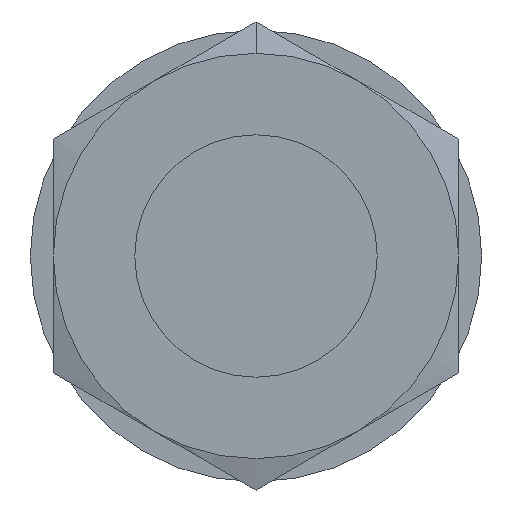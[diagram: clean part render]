
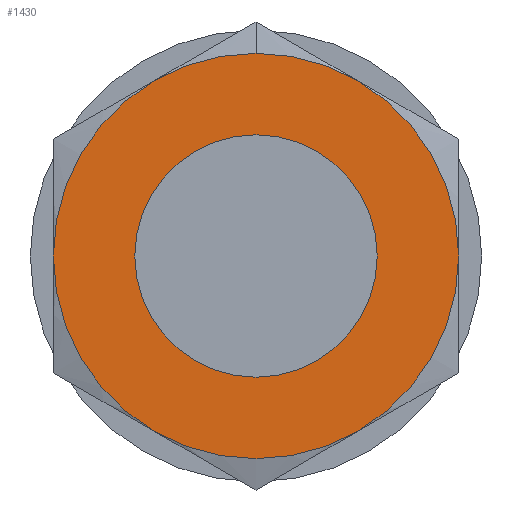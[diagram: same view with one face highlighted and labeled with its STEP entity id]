
A CAD part, front view. The second image highlights one B-rep face of the part: STEP entity #1430.
In plain terms, the highlighted planar face has unit normal (0, -1, 0).
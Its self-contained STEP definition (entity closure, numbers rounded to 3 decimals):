
#1 = AXIS2_PLACEMENT_3D ( 'NONE', #1334, #1200, #502 ) ;
#24 = EDGE_CURVE ( 'NONE', #1150, #1689, #1763, .T. ) ;
#46 = CARTESIAN_POINT ( 'NONE',  ( 0., 3.49, 11. ) ) ;
#48 = DIRECTION ( 'NONE',  ( 0., 0., -1. ) ) ;
#60 = ORIENTED_EDGE ( 'NONE', *, *, #1817, .T. ) ;
#90 = FACE_BOUND ( 'NONE', #982, .T. ) ;
#123 = AXIS2_PLACEMENT_3D ( 'NONE', #332, #941, #468 ) ;
#124 = ORIENTED_EDGE ( 'NONE', *, *, #134, .T. ) ;
#131 = CARTESIAN_POINT ( 'NONE',  ( 0., 3.49, 0. ) ) ;
#134 = EDGE_CURVE ( 'NONE', #1788, #699, #1440, .T. ) ;
#144 = CIRCLE ( 'NONE', #1023, 11. ) ;
#152 = CIRCLE ( 'NONE', #532, 11. ) ;
#199 = CARTESIAN_POINT ( 'NONE',  ( 0., 3.49, 0. ) ) ;
#228 = FACE_OUTER_BOUND ( 'NONE', #481, .T. ) ;
#229 = VERTEX_POINT ( 'NONE', #1601 ) ;
#245 = ORIENTED_EDGE ( 'NONE', *, *, #24, .T. ) ;
#282 = AXIS2_PLACEMENT_3D ( 'NONE', #1807, #678, #1247 ) ;
#297 = DIRECTION ( 'NONE',  ( 0., 0., -1. ) ) ;
#332 = CARTESIAN_POINT ( 'NONE',  ( 11., 3.49, 0. ) ) ;
#421 = ORIENTED_EDGE ( 'NONE', *, *, #682, .T. ) ;
#442 = CIRCLE ( 'NONE', #1652, 11. ) ;
#443 = CARTESIAN_POINT ( 'NONE',  ( 0., 3.49, 0. ) ) ;
#466 = ORIENTED_EDGE ( 'NONE', *, *, #1469, .T. ) ;
#468 = DIRECTION ( 'NONE',  ( 1., 0., 0. ) ) ;
#481 = EDGE_LOOP ( 'NONE', ( #245, #1585, #124, #466, #1109, #421, #60 ) ) ;
#502 = DIRECTION ( 'NONE',  ( 0., 0., -1. ) ) ;
#522 = DIRECTION ( 'NONE',  ( 0., 0., -1. ) ) ;
#532 = AXIS2_PLACEMENT_3D ( 'NONE', #199, #648, #902 ) ;
#555 = CARTESIAN_POINT ( 'NONE',  ( 5.5, 3.49, -9.526 ) ) ;
#588 = CARTESIAN_POINT ( 'NONE',  ( 0., 3.49, 0. ) ) ;
#593 = ORIENTED_EDGE ( 'NONE', *, *, #1624, .F. ) ;
#599 = CARTESIAN_POINT ( 'NONE',  ( 0., 3.49, -6.579 ) ) ;
#608 = CARTESIAN_POINT ( 'NONE',  ( 11., 3.49, 0. ) ) ;
#624 = EDGE_CURVE ( 'NONE', #229, #1369, #144, .T. ) ;
#648 = DIRECTION ( 'NONE',  ( 0., -1., 0. ) ) ;
#649 = CARTESIAN_POINT ( 'NONE',  ( 0., 3.49, 0. ) ) ;
#678 = DIRECTION ( 'NONE',  ( 0., -1., 0. ) ) ;
#682 = EDGE_CURVE ( 'NONE', #1369, #1267, #1500, .T. ) ;
#699 = VERTEX_POINT ( 'NONE', #46 ) ;
#733 = DIRECTION ( 'NONE',  ( 0., 0., -1. ) ) ;
#749 = AXIS2_PLACEMENT_3D ( 'NONE', #1276, #1443, #48 ) ;
#830 = VERTEX_POINT ( 'NONE', #1810 ) ;
#902 = DIRECTION ( 'NONE',  ( 0., 0., -1. ) ) ;
#918 = CARTESIAN_POINT ( 'NONE',  ( 5.5, 3.49, 9.526 ) ) ;
#941 = DIRECTION ( 'NONE',  ( 0., 1., 0. ) ) ;
#949 = DIRECTION ( 'NONE',  ( 0., -1., 0. ) ) ;
#971 = AXIS2_PLACEMENT_3D ( 'NONE', #588, #1151, #733 ) ;
#974 = DIRECTION ( 'NONE',  ( 0., -1., 0. ) ) ;
#982 = EDGE_LOOP ( 'NONE', ( #1166, #593 ) ) ;
#987 = CIRCLE ( 'NONE', #282, 6.579 ) ;
#1023 = AXIS2_PLACEMENT_3D ( 'NONE', #131, #974, #1093 ) ;
#1093 = DIRECTION ( 'NONE',  ( 0., 0., -1. ) ) ;
#1109 = ORIENTED_EDGE ( 'NONE', *, *, #624, .T. ) ;
#1149 = DIRECTION ( 'NONE',  ( 0., -1., 0. ) ) ;
#1150 = VERTEX_POINT ( 'NONE', #555 ) ;
#1151 = DIRECTION ( 'NONE',  ( 0., -1., 0. ) ) ;
#1166 = ORIENTED_EDGE ( 'NONE', *, *, #1715, .F. ) ;
#1170 = AXIS2_PLACEMENT_3D ( 'NONE', #1275, #1431, #1448 ) ;
#1200 = DIRECTION ( 'NONE',  ( 0., -1., 0. ) ) ;
#1222 = CIRCLE ( 'NONE', #749, 6.579 ) ;
#1247 = DIRECTION ( 'NONE',  ( 0., 0., -1. ) ) ;
#1267 = VERTEX_POINT ( 'NONE', #1573 ) ;
#1275 = CARTESIAN_POINT ( 'NONE',  ( 0., 3.49, 0. ) ) ;
#1276 = CARTESIAN_POINT ( 'NONE',  ( 0., 3.49, 0. ) ) ;
#1334 = CARTESIAN_POINT ( 'NONE',  ( 0., 3.49, 0. ) ) ;
#1345 = AXIS2_PLACEMENT_3D ( 'NONE', #443, #1149, #297 ) ;
#1369 = VERTEX_POINT ( 'NONE', #1770 ) ;
#1430 = ADVANCED_FACE ( 'NONE', ( #228, #90 ), #1782, .F. ) ;
#1431 = DIRECTION ( 'NONE',  ( 0., -1., 0. ) ) ;
#1440 = CIRCLE ( 'NONE', #1345, 11. ) ;
#1443 = DIRECTION ( 'NONE',  ( 0., -1., 0. ) ) ;
#1448 = DIRECTION ( 'NONE',  ( 0., 0., -1. ) ) ;
#1469 = EDGE_CURVE ( 'NONE', #699, #229, #442, .T. ) ;
#1500 = CIRCLE ( 'NONE', #1170, 11. ) ;
#1508 = CIRCLE ( 'NONE', #1, 11. ) ;
#1573 = CARTESIAN_POINT ( 'NONE',  ( -5.5, 3.49, -9.526 ) ) ;
#1585 = ORIENTED_EDGE ( 'NONE', *, *, #1822, .T. ) ;
#1601 = CARTESIAN_POINT ( 'NONE',  ( -5.5, 3.49, 9.526 ) ) ;
#1624 = EDGE_CURVE ( 'NONE', #830, #1628, #987, .T. ) ;
#1628 = VERTEX_POINT ( 'NONE', #599 ) ;
#1652 = AXIS2_PLACEMENT_3D ( 'NONE', #649, #949, #522 ) ;
#1689 = VERTEX_POINT ( 'NONE', #608 ) ;
#1715 = EDGE_CURVE ( 'NONE', #1628, #830, #1222, .T. ) ;
#1763 = CIRCLE ( 'NONE', #971, 11. ) ;
#1770 = CARTESIAN_POINT ( 'NONE',  ( -11., 3.49, 0. ) ) ;
#1782 = PLANE ( 'NONE',  #123 ) ;
#1788 = VERTEX_POINT ( 'NONE', #918 ) ;
#1807 = CARTESIAN_POINT ( 'NONE',  ( 0., 3.49, 0. ) ) ;
#1810 = CARTESIAN_POINT ( 'NONE',  ( 0., 3.49, 6.579 ) ) ;
#1817 = EDGE_CURVE ( 'NONE', #1267, #1150, #1508, .T. ) ;
#1822 = EDGE_CURVE ( 'NONE', #1689, #1788, #152, .T. ) ;
